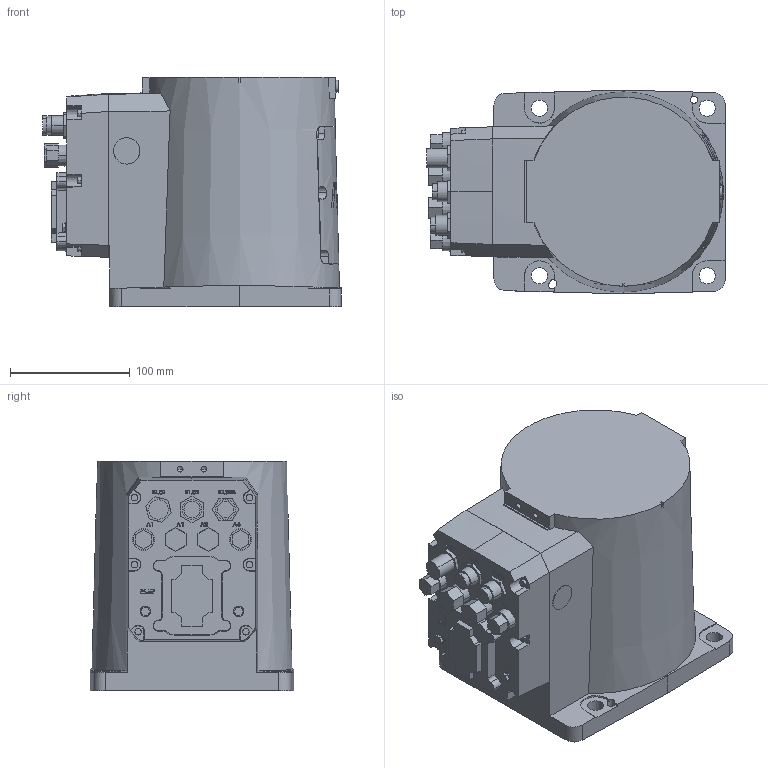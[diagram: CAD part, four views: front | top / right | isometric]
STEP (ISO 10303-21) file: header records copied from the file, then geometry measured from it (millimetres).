
FILE_DESCRIPTION (( 'STEP AP214' ), '1' );
FILE_NAME ('IRB920T_6kg-550-250-IP54-STD_OmniCore_rev00_LINK0_CAD.step', '2021-10-28T02:22:12', ( '' ), ( '' ), 'SwSTEP 2.0', 'SolidWorks 2018', '' );
FILE_SCHEMA (( 'AUTOMOTIVE_DESIGN' ));
Length unit declared in the file: millimetre
Products named in the file (1): IRB920T_6kg-550-250-IP54-STD_OmniCore_rev00_LINK0_CAD
Bounding box: 249 x 170 x 191.4 mm (x, y, z)
Volume: 5238972.8 mm3; surface area: 218594.7 mm2
Topology: 1 solids, 1 shells, 828 faces, 2181 edges, 1438 vertices
Faces by surface type: plane 492, bspline 189, cylinder 84, cone 63
Entity records: 31882 total; most frequent: CARTESIAN_POINT 12786, ORIENTED_EDGE 4346, DIRECTION 3102, EDGE_CURVE 2173, VERTEX_POINT 1438, VECTOR 1374, LINE 1374, EDGE_LOOP 931
